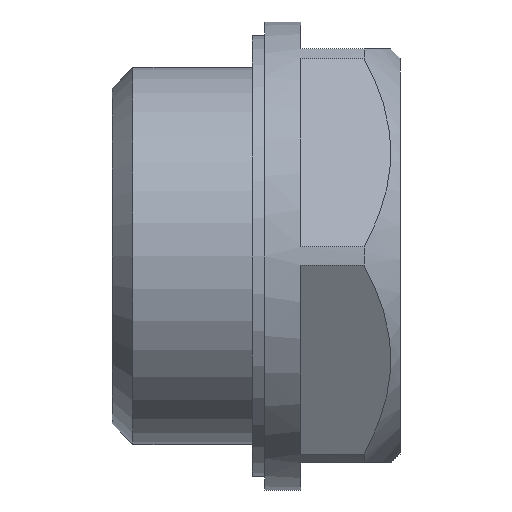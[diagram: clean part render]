
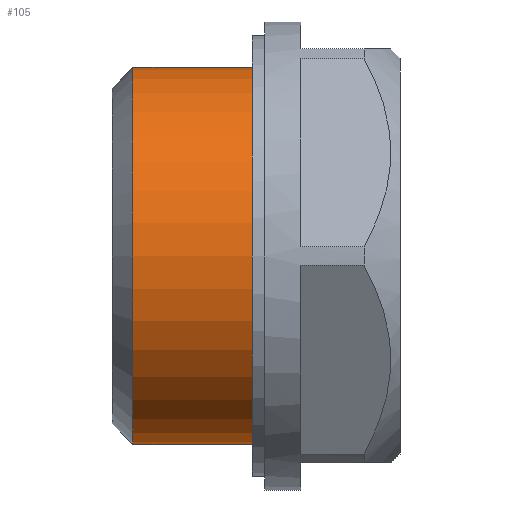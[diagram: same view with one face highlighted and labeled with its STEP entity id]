
A CAD part, front view. The second image highlights one B-rep face of the part: STEP entity #105.
In plain terms, the highlighted cylindrical face has radius 10.477 mm (diameter 20.955 mm), a full revolution.
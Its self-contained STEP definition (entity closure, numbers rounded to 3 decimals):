
#105 = ADVANCED_FACE( '', ( #184, #185 ), #186, .T. );
#184 = FACE_OUTER_BOUND( '', #266, .T. );
#185 = FACE_OUTER_BOUND( '', #267, .T. );
#186 = CYLINDRICAL_SURFACE( '', #268, 10.478 );
#266 = EDGE_LOOP( '', ( #443 ) );
#267 = EDGE_LOOP( '', ( #444 ) );
#268 = AXIS2_PLACEMENT_3D( '', #445, #446, #447 );
#443 = ORIENTED_EDGE( '', *, *, #529, .F. );
#444 = ORIENTED_EDGE( '', *, *, #513, .T. );
#445 = CARTESIAN_POINT( '', ( 16., 0., 0. ) );
#446 = DIRECTION( '', ( -1., 0., 0. ) );
#447 = DIRECTION( '', ( 0., 0., -1. ) );
#513 = EDGE_CURVE( '', #600, #600, #601, .T. );
#529 = EDGE_CURVE( '', #624, #624, #625, .T. );
#600 = VERTEX_POINT( '', #790 );
#601 = CIRCLE( '', #791, 10.478 );
#624 = VERTEX_POINT( '', #820 );
#625 = CIRCLE( '', #821, 10.478 );
#790 = CARTESIAN_POINT( '', ( 1.162, 0., -10.478 ) );
#791 = AXIS2_PLACEMENT_3D( '', #891, #892, #893 );
#820 = CARTESIAN_POINT( '', ( 7.8, 0., -10.478 ) );
#821 = AXIS2_PLACEMENT_3D( '', #927, #928, #929 );
#891 = CARTESIAN_POINT( '', ( 1.162, 0., 0. ) );
#892 = DIRECTION( '', ( 1., 0., 0. ) );
#893 = DIRECTION( '', ( 0., 0., -1. ) );
#927 = CARTESIAN_POINT( '', ( 7.8, 0., 0. ) );
#928 = DIRECTION( '', ( 1., 0., 0. ) );
#929 = DIRECTION( '', ( 0., 0., -1. ) );
